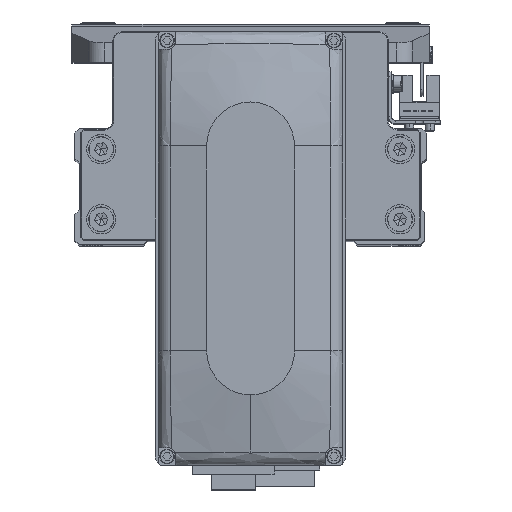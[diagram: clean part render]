
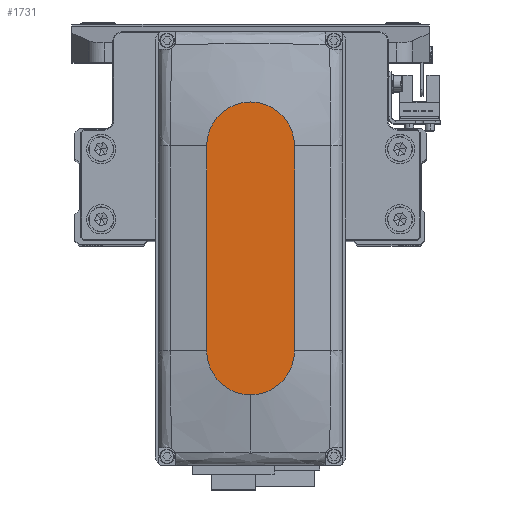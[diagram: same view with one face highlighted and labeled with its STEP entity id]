
A CAD part, top view. The second image highlights one B-rep face of the part: STEP entity #1731.
In plain terms, the highlighted planar face has unit normal (0, 0, 1).
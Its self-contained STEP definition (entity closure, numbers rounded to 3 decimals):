
#1731 = ADVANCED_FACE ( 'NONE', ( #27505 ), #40562, .T. ) ;
#2747 = CARTESIAN_POINT ( 'NONE',  ( 35., 0., 35. ) ) ;
#3236 = ORIENTED_EDGE ( 'NONE', *, *, #3745, .T. ) ;
#3745 = EDGE_CURVE ( 'NONE', #40229, #41321, #9612, .T. ) ;
#3970 = ORIENTED_EDGE ( 'NONE', *, *, #14995, .T. ) ;
#4306 = CARTESIAN_POINT ( 'NONE',  ( 35., 0., 35. ) ) ;
#5830 = CARTESIAN_POINT ( 'NONE',  ( 35., 15., 35. ) ) ;
#5872 = DIRECTION ( 'NONE',  ( 0., 0., 1. ) ) ;
#7320 = ORIENTED_EDGE ( 'NONE', *, *, #8411, .T. ) ;
#7496 = CIRCLE ( 'NONE', #31463, 15. ) ;
#7622 = LINE ( 'NONE', #20706, #16325 ) ;
#8411 = EDGE_CURVE ( 'NONE', #39452, #26315, #7622, .T. ) ;
#9612 = LINE ( 'NONE', #22712, #17341 ) ;
#11186 = CARTESIAN_POINT ( 'NONE',  ( 0., 0., 35. ) ) ;
#12856 = CARTESIAN_POINT ( 'NONE',  ( 35., -15., 35. ) ) ;
#13325 = AXIS2_PLACEMENT_3D ( 'NONE', #11186, #24280, #37340 ) ;
#13863 = ORIENTED_EDGE ( 'NONE', *, *, #20566, .T. ) ;
#14262 = AXIS2_PLACEMENT_3D ( 'NONE', #35229, #5872, #18948 ) ;
#14995 = EDGE_CURVE ( 'NONE', #26315, #40229, #32726, .T. ) ;
#15802 = DIRECTION ( 'NONE',  ( 0., 0., 1. ) ) ;
#16325 = VECTOR ( 'NONE', #33770, 1000. ) ;
#16408 = CIRCLE ( 'NONE', #40366, 15. ) ;
#17341 = VECTOR ( 'NONE', #35768, 1000. ) ;
#17361 = DIRECTION ( 'NONE',  ( 0., 0., 1. ) ) ;
#18948 = DIRECTION ( 'NONE',  ( 1., 0., 0. ) ) ;
#20566 = EDGE_CURVE ( 'NONE', #37486, #39452, #16408, .T. ) ;
#20706 = CARTESIAN_POINT ( 'NONE',  ( -35., 15., 35. ) ) ;
#22712 = CARTESIAN_POINT ( 'NONE',  ( -35., -15., 35. ) ) ;
#24280 = DIRECTION ( 'NONE',  ( 0., 0., 1. ) ) ;
#26315 = VERTEX_POINT ( 'NONE', #30993 ) ;
#27505 = FACE_OUTER_BOUND ( 'NONE', #27761, .T. ) ;
#27761 = EDGE_LOOP ( 'NONE', ( #7320, #3970, #3236, #39481, #13863 ) ) ;
#28877 = DIRECTION ( 'NONE',  ( 1., 0., 0. ) ) ;
#30434 = DIRECTION ( 'NONE',  ( 1., 0., 0. ) ) ;
#30993 = CARTESIAN_POINT ( 'NONE',  ( -35., 15., 35. ) ) ;
#31463 = AXIS2_PLACEMENT_3D ( 'NONE', #2747, #15802, #28877 ) ;
#32726 = CIRCLE ( 'NONE', #14262, 15. ) ;
#33770 = DIRECTION ( 'NONE',  ( -1., 0., 0. ) ) ;
#35229 = CARTESIAN_POINT ( 'NONE',  ( -35., 0., 35. ) ) ;
#35768 = DIRECTION ( 'NONE',  ( 1., 0., 0. ) ) ;
#37263 = CARTESIAN_POINT ( 'NONE',  ( -35., -15., 35. ) ) ;
#37340 = DIRECTION ( 'NONE',  ( 1., 0., 0. ) ) ;
#37486 = VERTEX_POINT ( 'NONE', #38020 ) ;
#38020 = CARTESIAN_POINT ( 'NONE',  ( 50., 0., 35. ) ) ;
#38544 = EDGE_CURVE ( 'NONE', #41321, #37486, #7496, .T. ) ;
#39452 = VERTEX_POINT ( 'NONE', #5830 ) ;
#39481 = ORIENTED_EDGE ( 'NONE', *, *, #38544, .T. ) ;
#40229 = VERTEX_POINT ( 'NONE', #37263 ) ;
#40366 = AXIS2_PLACEMENT_3D ( 'NONE', #4306, #17361, #30434 ) ;
#40562 = PLANE ( 'NONE',  #13325 ) ;
#41321 = VERTEX_POINT ( 'NONE', #12856 ) ;
